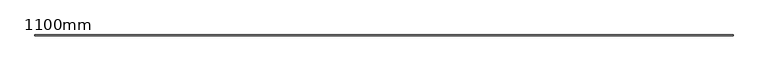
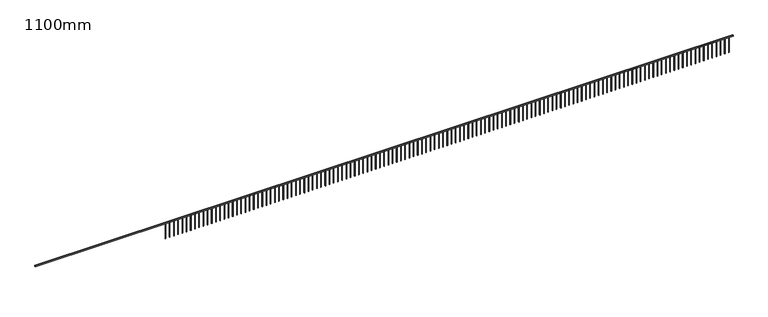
"""IFC4 building model written with IfcOpenShell, lengths in millimetres: railing geometry, 1100mm."""

from ifc_helpers import new_model, si_unit, frame, origin, place, context, project, spatial, polyline, outline, extrude, source, transform, mapped, element, save


def railing_1100mm_11e5196f(model_context):
    return source(origin(), model_context, "Body", "SweptSolid", [
        extrude(outline(polyline([(-10310.8244727, 2491.5551306), (-10310.8244727, 2541.5551306), (35319.9255273, 2541.5551306), (35319.9255273, 2491.5551306), (-10310.8244727, 2491.5551306)])), frame((0.0, 0.0, 5050.0), z_axis=(0.0, 0.0, 1.0), x_axis=(1.0, 0.0, 0.0)), (0.0, 0.0, 1.0), 50.0),
        extrude(outline(polyline([(35051.6755273, 2504.0551306), (35051.6755273, 2529.0551306), (35076.6755273, 2529.0551306), (35076.6755273, 2504.0551306), (35051.6755273, 2504.0551306)])), frame((0.0, 0.0, 4000.0), z_axis=(0.0, 0.0, 1.0), x_axis=(1.0, 0.0, 0.0)), (0.0, 0.0, 1.0), 1050.0),
        extrude(outline(polyline([(34776.6755273, 2504.0551306), (34776.6755273, 2529.0551306), (34801.6755273, 2529.0551306), (34801.6755273, 2504.0551306), (34776.6755273, 2504.0551306)])), frame((0.0, 0.0, 4000.0), z_axis=(0.0, 0.0, 1.0), x_axis=(1.0, 0.0, 0.0)), (0.0, 0.0, 1.0), 1050.0),
        extrude(outline(polyline([(34501.6755273, 2504.0551306), (34501.6755273, 2529.0551306), (34526.6755273, 2529.0551306), (34526.6755273, 2504.0551306), (34501.6755273, 2504.0551306)])), frame((0.0, 0.0, 4000.0), z_axis=(0.0, 0.0, 1.0), x_axis=(1.0, 0.0, 0.0)), (0.0, 0.0, 1.0), 1050.0),
        extrude(outline(polyline([(34226.6755273, 2504.0551306), (34226.6755273, 2529.0551306), (34251.6755273, 2529.0551306), (34251.6755273, 2504.0551306), (34226.6755273, 2504.0551306)])), frame((0.0, 0.0, 4000.0), z_axis=(0.0, 0.0, 1.0), x_axis=(1.0, 0.0, 0.0)), (0.0, 0.0, 1.0), 1050.0),
        extrude(outline(polyline([(33951.6755273, 2504.0551306), (33951.6755273, 2529.0551306), (33976.6755273, 2529.0551306), (33976.6755273, 2504.0551306), (33951.6755273, 2504.0551306)])), frame((0.0, 0.0, 4000.0), z_axis=(0.0, 0.0, 1.0), x_axis=(1.0, 0.0, 0.0)), (0.0, 0.0, 1.0), 1050.0),
        extrude(outline(polyline([(33676.6755273, 2504.0551306), (33676.6755273, 2529.0551306), (33701.6755273, 2529.0551306), (33701.6755273, 2504.0551306), (33676.6755273, 2504.0551306)])), frame((0.0, 0.0, 4000.0), z_axis=(0.0, 0.0, 1.0), x_axis=(1.0, 0.0, 0.0)), (0.0, 0.0, 1.0), 1050.0),
        extrude(outline(polyline([(33401.6755273, 2504.0551306), (33401.6755273, 2529.0551306), (33426.6755273, 2529.0551306), (33426.6755273, 2504.0551306), (33401.6755273, 2504.0551306)])), frame((0.0, 0.0, 4000.0), z_axis=(0.0, 0.0, 1.0), x_axis=(1.0, 0.0, 0.0)), (0.0, 0.0, 1.0), 1050.0),
        extrude(outline(polyline([(33126.6755273, 2504.0551306), (33126.6755273, 2529.0551306), (33151.6755273, 2529.0551306), (33151.6755273, 2504.0551306), (33126.6755273, 2504.0551306)])), frame((0.0, 0.0, 4000.0), z_axis=(0.0, 0.0, 1.0), x_axis=(1.0, 0.0, 0.0)), (0.0, 0.0, 1.0), 1050.0),
        extrude(outline(polyline([(32851.6755273, 2504.0551306), (32851.6755273, 2529.0551306), (32876.6755273, 2529.0551306), (32876.6755273, 2504.0551306), (32851.6755273, 2504.0551306)])), frame((0.0, 0.0, 4000.0), z_axis=(0.0, 0.0, 1.0), x_axis=(1.0, 0.0, 0.0)), (0.0, 0.0, 1.0), 1050.0),
        extrude(outline(polyline([(32576.6755273, 2504.0551306), (32576.6755273, 2529.0551306), (32601.6755273, 2529.0551306), (32601.6755273, 2504.0551306), (32576.6755273, 2504.0551306)])), frame((0.0, 0.0, 4000.0), z_axis=(0.0, 0.0, 1.0), x_axis=(1.0, 0.0, 0.0)), (0.0, 0.0, 1.0), 1050.0),
        extrude(outline(polyline([(32301.6755273, 2504.0551306), (32301.6755273, 2529.0551306), (32326.6755273, 2529.0551306), (32326.6755273, 2504.0551306), (32301.6755273, 2504.0551306)])), frame((0.0, 0.0, 4000.0), z_axis=(0.0, 0.0, 1.0), x_axis=(1.0, 0.0, 0.0)), (0.0, 0.0, 1.0), 1050.0),
        extrude(outline(polyline([(32026.6755273, 2504.0551306), (32026.6755273, 2529.0551306), (32051.6755273, 2529.0551306), (32051.6755273, 2504.0551306), (32026.6755273, 2504.0551306)])), frame((0.0, 0.0, 4000.0), z_axis=(0.0, 0.0, 1.0), x_axis=(1.0, 0.0, 0.0)), (0.0, 0.0, 1.0), 1050.0),
        extrude(outline(polyline([(31751.6755273, 2504.0551306), (31751.6755273, 2529.0551306), (31776.6755273, 2529.0551306), (31776.6755273, 2504.0551306), (31751.6755273, 2504.0551306)])), frame((0.0, 0.0, 4000.0), z_axis=(0.0, 0.0, 1.0), x_axis=(1.0, 0.0, 0.0)), (0.0, 0.0, 1.0), 1050.0),
        extrude(outline(polyline([(31476.6755273, 2504.0551306), (31476.6755273, 2529.0551306), (31501.6755273, 2529.0551306), (31501.6755273, 2504.0551306), (31476.6755273, 2504.0551306)])), frame((0.0, 0.0, 4000.0), z_axis=(0.0, 0.0, 1.0), x_axis=(1.0, 0.0, 0.0)), (0.0, 0.0, 1.0), 1050.0),
        extrude(outline(polyline([(31201.6755273, 2504.0551306), (31201.6755273, 2529.0551306), (31226.6755273, 2529.0551306), (31226.6755273, 2504.0551306), (31201.6755273, 2504.0551306)])), frame((0.0, 0.0, 4000.0), z_axis=(0.0, 0.0, 1.0), x_axis=(1.0, 0.0, 0.0)), (0.0, 0.0, 1.0), 1050.0),
        extrude(outline(polyline([(30926.6755273, 2504.0551306), (30926.6755273, 2529.0551306), (30951.6755273, 2529.0551306), (30951.6755273, 2504.0551306), (30926.6755273, 2504.0551306)])), frame((0.0, 0.0, 4000.0), z_axis=(0.0, 0.0, 1.0), x_axis=(1.0, 0.0, 0.0)), (0.0, 0.0, 1.0), 1050.0),
        extrude(outline(polyline([(30651.6755273, 2504.0551306), (30651.6755273, 2529.0551306), (30676.6755273, 2529.0551306), (30676.6755273, 2504.0551306), (30651.6755273, 2504.0551306)])), frame((0.0, 0.0, 4000.0), z_axis=(0.0, 0.0, 1.0), x_axis=(1.0, 0.0, 0.0)), (0.0, 0.0, 1.0), 1050.0),
        extrude(outline(polyline([(30376.6755273, 2504.0551306), (30376.6755273, 2529.0551306), (30401.6755273, 2529.0551306), (30401.6755273, 2504.0551306), (30376.6755273, 2504.0551306)])), frame((0.0, 0.0, 4000.0), z_axis=(0.0, 0.0, 1.0), x_axis=(1.0, 0.0, 0.0)), (0.0, 0.0, 1.0), 1050.0),
        extrude(outline(polyline([(30101.6755273, 2504.0551306), (30101.6755273, 2529.0551306), (30126.6755273, 2529.0551306), (30126.6755273, 2504.0551306), (30101.6755273, 2504.0551306)])), frame((0.0, 0.0, 4000.0), z_axis=(0.0, 0.0, 1.0), x_axis=(1.0, 0.0, 0.0)), (0.0, 0.0, 1.0), 1050.0),
        extrude(outline(polyline([(29826.6755273, 2504.0551306), (29826.6755273, 2529.0551306), (29851.6755273, 2529.0551306), (29851.6755273, 2504.0551306), (29826.6755273, 2504.0551306)])), frame((0.0, 0.0, 4000.0), z_axis=(0.0, 0.0, 1.0), x_axis=(1.0, 0.0, 0.0)), (0.0, 0.0, 1.0), 1050.0),
        extrude(outline(polyline([(29551.6755273, 2504.0551306), (29551.6755273, 2529.0551306), (29576.6755273, 2529.0551306), (29576.6755273, 2504.0551306), (29551.6755273, 2504.0551306)])), frame((0.0, 0.0, 4000.0), z_axis=(0.0, 0.0, 1.0), x_axis=(1.0, 0.0, 0.0)), (0.0, 0.0, 1.0), 1050.0),
        extrude(outline(polyline([(29276.6755273, 2504.0551306), (29276.6755273, 2529.0551306), (29301.6755273, 2529.0551306), (29301.6755273, 2504.0551306), (29276.6755273, 2504.0551306)])), frame((0.0, 0.0, 4000.0), z_axis=(0.0, 0.0, 1.0), x_axis=(1.0, 0.0, 0.0)), (0.0, 0.0, 1.0), 1050.0),
        extrude(outline(polyline([(29001.6755273, 2504.0551306), (29001.6755273, 2529.0551306), (29026.6755273, 2529.0551306), (29026.6755273, 2504.0551306), (29001.6755273, 2504.0551306)])), frame((0.0, 0.0, 4000.0), z_axis=(0.0, 0.0, 1.0), x_axis=(1.0, 0.0, 0.0)), (0.0, 0.0, 1.0), 1050.0),
        extrude(outline(polyline([(28726.6755273, 2504.0551306), (28726.6755273, 2529.0551306), (28751.6755273, 2529.0551306), (28751.6755273, 2504.0551306), (28726.6755273, 2504.0551306)])), frame((0.0, 0.0, 4000.0), z_axis=(0.0, 0.0, 1.0), x_axis=(1.0, 0.0, 0.0)), (0.0, 0.0, 1.0), 1050.0),
        extrude(outline(polyline([(28451.6755273, 2504.0551306), (28451.6755273, 2529.0551306), (28476.6755273, 2529.0551306), (28476.6755273, 2504.0551306), (28451.6755273, 2504.0551306)])), frame((0.0, 0.0, 4000.0), z_axis=(0.0, 0.0, 1.0), x_axis=(1.0, 0.0, 0.0)), (0.0, 0.0, 1.0), 1050.0),
        extrude(outline(polyline([(28176.6755273, 2504.0551306), (28176.6755273, 2529.0551306), (28201.6755273, 2529.0551306), (28201.6755273, 2504.0551306), (28176.6755273, 2504.0551306)])), frame((0.0, 0.0, 4000.0), z_axis=(0.0, 0.0, 1.0), x_axis=(1.0, 0.0, 0.0)), (0.0, 0.0, 1.0), 1050.0),
        extrude(outline(polyline([(27901.6755273, 2504.0551306), (27901.6755273, 2529.0551306), (27926.6755273, 2529.0551306), (27926.6755273, 2504.0551306), (27901.6755273, 2504.0551306)])), frame((0.0, 0.0, 4000.0), z_axis=(0.0, 0.0, 1.0), x_axis=(1.0, 0.0, 0.0)), (0.0, 0.0, 1.0), 1050.0),
        extrude(outline(polyline([(27626.6755273, 2504.0551306), (27626.6755273, 2529.0551306), (27651.6755273, 2529.0551306), (27651.6755273, 2504.0551306), (27626.6755273, 2504.0551306)])), frame((0.0, 0.0, 4000.0), z_axis=(0.0, 0.0, 1.0), x_axis=(1.0, 0.0, 0.0)), (0.0, 0.0, 1.0), 1050.0),
        extrude(outline(polyline([(27351.6755273, 2504.0551306), (27351.6755273, 2529.0551306), (27376.6755273, 2529.0551306), (27376.6755273, 2504.0551306), (27351.6755273, 2504.0551306)])), frame((0.0, 0.0, 4000.0), z_axis=(0.0, 0.0, 1.0), x_axis=(1.0, 0.0, 0.0)), (0.0, 0.0, 1.0), 1050.0),
        extrude(outline(polyline([(27076.6755273, 2504.0551306), (27076.6755273, 2529.0551306), (27101.6755273, 2529.0551306), (27101.6755273, 2504.0551306), (27076.6755273, 2504.0551306)])), frame((0.0, 0.0, 4000.0), z_axis=(0.0, 0.0, 1.0), x_axis=(1.0, 0.0, 0.0)), (0.0, 0.0, 1.0), 1050.0),
        extrude(outline(polyline([(26801.6755273, 2504.0551306), (26801.6755273, 2529.0551306), (26826.6755273, 2529.0551306), (26826.6755273, 2504.0551306), (26801.6755273, 2504.0551306)])), frame((0.0, 0.0, 4000.0), z_axis=(0.0, 0.0, 1.0), x_axis=(1.0, 0.0, 0.0)), (0.0, 0.0, 1.0), 1050.0),
        extrude(outline(polyline([(26526.6755273, 2504.0551306), (26526.6755273, 2529.0551306), (26551.6755273, 2529.0551306), (26551.6755273, 2504.0551306), (26526.6755273, 2504.0551306)])), frame((0.0, 0.0, 4000.0), z_axis=(0.0, 0.0, 1.0), x_axis=(1.0, 0.0, 0.0)), (0.0, 0.0, 1.0), 1050.0),
        extrude(outline(polyline([(26251.6755273, 2504.0551306), (26251.6755273, 2529.0551306), (26276.6755273, 2529.0551306), (26276.6755273, 2504.0551306), (26251.6755273, 2504.0551306)])), frame((0.0, 0.0, 4000.0), z_axis=(0.0, 0.0, 1.0), x_axis=(1.0, 0.0, 0.0)), (0.0, 0.0, 1.0), 1050.0),
        extrude(outline(polyline([(25976.6755273, 2504.0551306), (25976.6755273, 2529.0551306), (26001.6755273, 2529.0551306), (26001.6755273, 2504.0551306), (25976.6755273, 2504.0551306)])), frame((0.0, 0.0, 4000.0), z_axis=(0.0, 0.0, 1.0), x_axis=(1.0, 0.0, 0.0)), (0.0, 0.0, 1.0), 1050.0),
        extrude(outline(polyline([(25701.6755273, 2504.0551306), (25701.6755273, 2529.0551306), (25726.6755273, 2529.0551306), (25726.6755273, 2504.0551306), (25701.6755273, 2504.0551306)])), frame((0.0, 0.0, 4000.0), z_axis=(0.0, 0.0, 1.0), x_axis=(1.0, 0.0, 0.0)), (0.0, 0.0, 1.0), 1050.0),
        extrude(outline(polyline([(25426.6755273, 2504.0551306), (25426.6755273, 2529.0551306), (25451.6755273, 2529.0551306), (25451.6755273, 2504.0551306), (25426.6755273, 2504.0551306)])), frame((0.0, 0.0, 4000.0), z_axis=(0.0, 0.0, 1.0), x_axis=(1.0, 0.0, 0.0)), (0.0, 0.0, 1.0), 1050.0),
        extrude(outline(polyline([(25151.6755273, 2504.0551306), (25151.6755273, 2529.0551306), (25176.6755273, 2529.0551306), (25176.6755273, 2504.0551306), (25151.6755273, 2504.0551306)])), frame((0.0, 0.0, 4000.0), z_axis=(0.0, 0.0, 1.0), x_axis=(1.0, 0.0, 0.0)), (0.0, 0.0, 1.0), 1050.0),
        extrude(outline(polyline([(24876.6755273, 2504.0551306), (24876.6755273, 2529.0551306), (24901.6755273, 2529.0551306), (24901.6755273, 2504.0551306), (24876.6755273, 2504.0551306)])), frame((0.0, 0.0, 4000.0), z_axis=(0.0, 0.0, 1.0), x_axis=(1.0, 0.0, 0.0)), (0.0, 0.0, 1.0), 1050.0),
        extrude(outline(polyline([(24601.6755273, 2504.0551306), (24601.6755273, 2529.0551306), (24626.6755273, 2529.0551306), (24626.6755273, 2504.0551306), (24601.6755273, 2504.0551306)])), frame((0.0, 0.0, 4000.0), z_axis=(0.0, 0.0, 1.0), x_axis=(1.0, 0.0, 0.0)), (0.0, 0.0, 1.0), 1050.0),
        extrude(outline(polyline([(24326.6755273, 2504.0551306), (24326.6755273, 2529.0551306), (24351.6755273, 2529.0551306), (24351.6755273, 2504.0551306), (24326.6755273, 2504.0551306)])), frame((0.0, 0.0, 4000.0), z_axis=(0.0, 0.0, 1.0), x_axis=(1.0, 0.0, 0.0)), (0.0, 0.0, 1.0), 1050.0),
        extrude(outline(polyline([(24051.6755273, 2504.0551306), (24051.6755273, 2529.0551306), (24076.6755273, 2529.0551306), (24076.6755273, 2504.0551306), (24051.6755273, 2504.0551306)])), frame((0.0, 0.0, 4000.0), z_axis=(0.0, 0.0, 1.0), x_axis=(1.0, 0.0, 0.0)), (0.0, 0.0, 1.0), 1050.0),
        extrude(outline(polyline([(23776.6755273, 2504.0551306), (23776.6755273, 2529.0551306), (23801.6755273, 2529.0551306), (23801.6755273, 2504.0551306), (23776.6755273, 2504.0551306)])), frame((0.0, 0.0, 4000.0), z_axis=(0.0, 0.0, 1.0), x_axis=(1.0, 0.0, 0.0)), (0.0, 0.0, 1.0), 1050.0),
        extrude(outline(polyline([(23501.6755273, 2504.0551306), (23501.6755273, 2529.0551306), (23526.6755273, 2529.0551306), (23526.6755273, 2504.0551306), (23501.6755273, 2504.0551306)])), frame((0.0, 0.0, 4000.0), z_axis=(0.0, 0.0, 1.0), x_axis=(1.0, 0.0, 0.0)), (0.0, 0.0, 1.0), 1050.0),
        extrude(outline(polyline([(23226.6755273, 2504.0551306), (23226.6755273, 2529.0551306), (23251.6755273, 2529.0551306), (23251.6755273, 2504.0551306), (23226.6755273, 2504.0551306)])), frame((0.0, 0.0, 4000.0), z_axis=(0.0, 0.0, 1.0), x_axis=(1.0, 0.0, 0.0)), (0.0, 0.0, 1.0), 1050.0),
        extrude(outline(polyline([(22951.6755273, 2504.0551306), (22951.6755273, 2529.0551306), (22976.6755273, 2529.0551306), (22976.6755273, 2504.0551306), (22951.6755273, 2504.0551306)])), frame((0.0, 0.0, 4000.0), z_axis=(0.0, 0.0, 1.0), x_axis=(1.0, 0.0, 0.0)), (0.0, 0.0, 1.0), 1050.0),
        extrude(outline(polyline([(22676.6755273, 2504.0551306), (22676.6755273, 2529.0551306), (22701.6755273, 2529.0551306), (22701.6755273, 2504.0551306), (22676.6755273, 2504.0551306)])), frame((0.0, 0.0, 4000.0), z_axis=(0.0, 0.0, 1.0), x_axis=(1.0, 0.0, 0.0)), (0.0, 0.0, 1.0), 1050.0),
        extrude(outline(polyline([(22401.6755273, 2504.0551306), (22401.6755273, 2529.0551306), (22426.6755273, 2529.0551306), (22426.6755273, 2504.0551306), (22401.6755273, 2504.0551306)])), frame((0.0, 0.0, 4000.0), z_axis=(0.0, 0.0, 1.0), x_axis=(1.0, 0.0, 0.0)), (0.0, 0.0, 1.0), 1050.0),
        extrude(outline(polyline([(22126.6755273, 2504.0551306), (22126.6755273, 2529.0551306), (22151.6755273, 2529.0551306), (22151.6755273, 2504.0551306), (22126.6755273, 2504.0551306)])), frame((0.0, 0.0, 4000.0), z_axis=(0.0, 0.0, 1.0), x_axis=(1.0, 0.0, 0.0)), (0.0, 0.0, 1.0), 1050.0),
        extrude(outline(polyline([(21851.6755273, 2504.0551306), (21851.6755273, 2529.0551306), (21876.6755273, 2529.0551306), (21876.6755273, 2504.0551306), (21851.6755273, 2504.0551306)])), frame((0.0, 0.0, 4000.0), z_axis=(0.0, 0.0, 1.0), x_axis=(1.0, 0.0, 0.0)), (0.0, 0.0, 1.0), 1050.0),
        extrude(outline(polyline([(21576.6755273, 2504.0551306), (21576.6755273, 2529.0551306), (21601.6755273, 2529.0551306), (21601.6755273, 2504.0551306), (21576.6755273, 2504.0551306)])), frame((0.0, 0.0, 4000.0), z_axis=(0.0, 0.0, 1.0), x_axis=(1.0, 0.0, 0.0)), (0.0, 0.0, 1.0), 1050.0),
        extrude(outline(polyline([(21301.6755273, 2504.0551306), (21301.6755273, 2529.0551306), (21326.6755273, 2529.0551306), (21326.6755273, 2504.0551306), (21301.6755273, 2504.0551306)])), frame((0.0, 0.0, 4000.0), z_axis=(0.0, 0.0, 1.0), x_axis=(1.0, 0.0, 0.0)), (0.0, 0.0, 1.0), 1050.0),
        extrude(outline(polyline([(21026.6755273, 2504.0551306), (21026.6755273, 2529.0551306), (21051.6755273, 2529.0551306), (21051.6755273, 2504.0551306), (21026.6755273, 2504.0551306)])), frame((0.0, 0.0, 4000.0), z_axis=(0.0, 0.0, 1.0), x_axis=(1.0, 0.0, 0.0)), (0.0, 0.0, 1.0), 1050.0),
        extrude(outline(polyline([(20751.6755273, 2504.0551306), (20751.6755273, 2529.0551306), (20776.6755273, 2529.0551306), (20776.6755273, 2504.0551306), (20751.6755273, 2504.0551306)])), frame((0.0, 0.0, 4000.0), z_axis=(0.0, 0.0, 1.0), x_axis=(1.0, 0.0, 0.0)), (0.0, 0.0, 1.0), 1050.0),
        extrude(outline(polyline([(20476.6755273, 2504.0551306), (20476.6755273, 2529.0551306), (20501.6755273, 2529.0551306), (20501.6755273, 2504.0551306), (20476.6755273, 2504.0551306)])), frame((0.0, 0.0, 4000.0), z_axis=(0.0, 0.0, 1.0), x_axis=(1.0, 0.0, 0.0)), (0.0, 0.0, 1.0), 1050.0),
        extrude(outline(polyline([(20201.6755273, 2504.0551306), (20201.6755273, 2529.0551306), (20226.6755273, 2529.0551306), (20226.6755273, 2504.0551306), (20201.6755273, 2504.0551306)])), frame((0.0, 0.0, 4000.0), z_axis=(0.0, 0.0, 1.0), x_axis=(1.0, 0.0, 0.0)), (0.0, 0.0, 1.0), 1050.0),
        extrude(outline(polyline([(19926.6755273, 2504.0551306), (19926.6755273, 2529.0551306), (19951.6755273, 2529.0551306), (19951.6755273, 2504.0551306), (19926.6755273, 2504.0551306)])), frame((0.0, 0.0, 4000.0), z_axis=(0.0, 0.0, 1.0), x_axis=(1.0, 0.0, 0.0)), (0.0, 0.0, 1.0), 1050.0),
        extrude(outline(polyline([(19651.6755273, 2504.0551306), (19651.6755273, 2529.0551306), (19676.6755273, 2529.0551306), (19676.6755273, 2504.0551306), (19651.6755273, 2504.0551306)])), frame((0.0, 0.0, 4000.0), z_axis=(0.0, 0.0, 1.0), x_axis=(1.0, 0.0, 0.0)), (0.0, 0.0, 1.0), 1050.0),
        extrude(outline(polyline([(19376.6755273, 2504.0551306), (19376.6755273, 2529.0551306), (19401.6755273, 2529.0551306), (19401.6755273, 2504.0551306), (19376.6755273, 2504.0551306)])), frame((0.0, 0.0, 4000.0), z_axis=(0.0, 0.0, 1.0), x_axis=(1.0, 0.0, 0.0)), (0.0, 0.0, 1.0), 1050.0),
        extrude(outline(polyline([(19101.6755273, 2504.0551306), (19101.6755273, 2529.0551306), (19126.6755273, 2529.0551306), (19126.6755273, 2504.0551306), (19101.6755273, 2504.0551306)])), frame((0.0, 0.0, 4000.0), z_axis=(0.0, 0.0, 1.0), x_axis=(1.0, 0.0, 0.0)), (0.0, 0.0, 1.0), 1050.0),
        extrude(outline(polyline([(18826.6755273, 2504.0551306), (18826.6755273, 2529.0551306), (18851.6755273, 2529.0551306), (18851.6755273, 2504.0551306), (18826.6755273, 2504.0551306)])), frame((0.0, 0.0, 4000.0), z_axis=(0.0, 0.0, 1.0), x_axis=(1.0, 0.0, 0.0)), (0.0, 0.0, 1.0), 1050.0),
        extrude(outline(polyline([(18551.6755273, 2504.0551306), (18551.6755273, 2529.0551306), (18576.6755273, 2529.0551306), (18576.6755273, 2504.0551306), (18551.6755273, 2504.0551306)])), frame((0.0, 0.0, 4000.0), z_axis=(0.0, 0.0, 1.0), x_axis=(1.0, 0.0, 0.0)), (0.0, 0.0, 1.0), 1050.0),
        extrude(outline(polyline([(18276.6755273, 2504.0551306), (18276.6755273, 2529.0551306), (18301.6755273, 2529.0551306), (18301.6755273, 2504.0551306), (18276.6755273, 2504.0551306)])), frame((0.0, 0.0, 4000.0), z_axis=(0.0, 0.0, 1.0), x_axis=(1.0, 0.0, 0.0)), (0.0, 0.0, 1.0), 1050.0),
        extrude(outline(polyline([(18001.6755273, 2504.0551306), (18001.6755273, 2529.0551306), (18026.6755273, 2529.0551306), (18026.6755273, 2504.0551306), (18001.6755273, 2504.0551306)])), frame((0.0, 0.0, 4000.0), z_axis=(0.0, 0.0, 1.0), x_axis=(1.0, 0.0, 0.0)), (0.0, 0.0, 1.0), 1050.0),
        extrude(outline(polyline([(17726.6755273, 2504.0551306), (17726.6755273, 2529.0551306), (17751.6755273, 2529.0551306), (17751.6755273, 2504.0551306), (17726.6755273, 2504.0551306)])), frame((0.0, 0.0, 4000.0), z_axis=(0.0, 0.0, 1.0), x_axis=(1.0, 0.0, 0.0)), (0.0, 0.0, 1.0), 1050.0),
        extrude(outline(polyline([(17451.6755273, 2504.0551306), (17451.6755273, 2529.0551306), (17476.6755273, 2529.0551306), (17476.6755273, 2504.0551306), (17451.6755273, 2504.0551306)])), frame((0.0, 0.0, 4000.0), z_axis=(0.0, 0.0, 1.0), x_axis=(1.0, 0.0, 0.0)), (0.0, 0.0, 1.0), 1050.0),
        extrude(outline(polyline([(17176.6755273, 2504.0551306), (17176.6755273, 2529.0551306), (17201.6755273, 2529.0551306), (17201.6755273, 2504.0551306), (17176.6755273, 2504.0551306)])), frame((0.0, 0.0, 4000.0), z_axis=(0.0, 0.0, 1.0), x_axis=(1.0, 0.0, 0.0)), (0.0, 0.0, 1.0), 1050.0),
        extrude(outline(polyline([(16901.6755273, 2504.0551306), (16901.6755273, 2529.0551306), (16926.6755273, 2529.0551306), (16926.6755273, 2504.0551306), (16901.6755273, 2504.0551306)])), frame((0.0, 0.0, 4000.0), z_axis=(0.0, 0.0, 1.0), x_axis=(1.0, 0.0, 0.0)), (0.0, 0.0, 1.0), 1050.0),
        extrude(outline(polyline([(16626.6755273, 2504.0551306), (16626.6755273, 2529.0551306), (16651.6755273, 2529.0551306), (16651.6755273, 2504.0551306), (16626.6755273, 2504.0551306)])), frame((0.0, 0.0, 4000.0), z_axis=(0.0, 0.0, 1.0), x_axis=(1.0, 0.0, 0.0)), (0.0, 0.0, 1.0), 1050.0),
        extrude(outline(polyline([(16351.6755273, 2504.0551306), (16351.6755273, 2529.0551306), (16376.6755273, 2529.0551306), (16376.6755273, 2504.0551306), (16351.6755273, 2504.0551306)])), frame((0.0, 0.0, 4000.0), z_axis=(0.0, 0.0, 1.0), x_axis=(1.0, 0.0, 0.0)), (0.0, 0.0, 1.0), 1050.0),
        extrude(outline(polyline([(16076.6755273, 2504.0551306), (16076.6755273, 2529.0551306), (16101.6755273, 2529.0551306), (16101.6755273, 2504.0551306), (16076.6755273, 2504.0551306)])), frame((0.0, 0.0, 4000.0), z_axis=(0.0, 0.0, 1.0), x_axis=(1.0, 0.0, 0.0)), (0.0, 0.0, 1.0), 1050.0),
        extrude(outline(polyline([(15801.6755273, 2504.0551306), (15801.6755273, 2529.0551306), (15826.6755273, 2529.0551306), (15826.6755273, 2504.0551306), (15801.6755273, 2504.0551306)])), frame((0.0, 0.0, 4000.0), z_axis=(0.0, 0.0, 1.0), x_axis=(1.0, 0.0, 0.0)), (0.0, 0.0, 1.0), 1050.0),
        extrude(outline(polyline([(15526.6755273, 2504.0551306), (15526.6755273, 2529.0551306), (15551.6755273, 2529.0551306), (15551.6755273, 2504.0551306), (15526.6755273, 2504.0551306)])), frame((0.0, 0.0, 4000.0), z_axis=(0.0, 0.0, 1.0), x_axis=(1.0, 0.0, 0.0)), (0.0, 0.0, 1.0), 1050.0),
        extrude(outline(polyline([(15251.6755273, 2504.0551306), (15251.6755273, 2529.0551306), (15276.6755273, 2529.0551306), (15276.6755273, 2504.0551306), (15251.6755273, 2504.0551306)])), frame((0.0, 0.0, 4000.0), z_axis=(0.0, 0.0, 1.0), x_axis=(1.0, 0.0, 0.0)), (0.0, 0.0, 1.0), 1050.0),
        extrude(outline(polyline([(14976.6755273, 2504.0551306), (14976.6755273, 2529.0551306), (15001.6755273, 2529.0551306), (15001.6755273, 2504.0551306), (14976.6755273, 2504.0551306)])), frame((0.0, 0.0, 4000.0), z_axis=(0.0, 0.0, 1.0), x_axis=(1.0, 0.0, 0.0)), (0.0, 0.0, 1.0), 1050.0),
        extrude(outline(polyline([(14701.6755273, 2504.0551306), (14701.6755273, 2529.0551306), (14726.6755273, 2529.0551306), (14726.6755273, 2504.0551306), (14701.6755273, 2504.0551306)])), frame((0.0, 0.0, 4000.0), z_axis=(0.0, 0.0, 1.0), x_axis=(1.0, 0.0, 0.0)), (0.0, 0.0, 1.0), 1050.0),
        extrude(outline(polyline([(14426.6755273, 2504.0551306), (14426.6755273, 2529.0551306), (14451.6755273, 2529.0551306), (14451.6755273, 2504.0551306), (14426.6755273, 2504.0551306)])), frame((0.0, 0.0, 4000.0), z_axis=(0.0, 0.0, 1.0), x_axis=(1.0, 0.0, 0.0)), (0.0, 0.0, 1.0), 1050.0),
        extrude(outline(polyline([(14151.6755273, 2504.0551306), (14151.6755273, 2529.0551306), (14176.6755273, 2529.0551306), (14176.6755273, 2504.0551306), (14151.6755273, 2504.0551306)])), frame((0.0, 0.0, 4000.0), z_axis=(0.0, 0.0, 1.0), x_axis=(1.0, 0.0, 0.0)), (0.0, 0.0, 1.0), 1050.0),
        extrude(outline(polyline([(13876.6755273, 2504.0551306), (13876.6755273, 2529.0551306), (13901.6755273, 2529.0551306), (13901.6755273, 2504.0551306), (13876.6755273, 2504.0551306)])), frame((0.0, 0.0, 4000.0), z_axis=(0.0, 0.0, 1.0), x_axis=(1.0, 0.0, 0.0)), (0.0, 0.0, 1.0), 1050.0),
        extrude(outline(polyline([(13601.6755273, 2504.0551306), (13601.6755273, 2529.0551306), (13626.6755273, 2529.0551306), (13626.6755273, 2504.0551306), (13601.6755273, 2504.0551306)])), frame((0.0, 0.0, 4000.0), z_axis=(0.0, 0.0, 1.0), x_axis=(1.0, 0.0, 0.0)), (0.0, 0.0, 1.0), 1050.0),
        extrude(outline(polyline([(13326.6755273, 2504.0551306), (13326.6755273, 2529.0551306), (13351.6755273, 2529.0551306), (13351.6755273, 2504.0551306), (13326.6755273, 2504.0551306)])), frame((0.0, 0.0, 4000.0), z_axis=(0.0, 0.0, 1.0), x_axis=(1.0, 0.0, 0.0)), (0.0, 0.0, 1.0), 1050.0),
        extrude(outline(polyline([(13051.6755273, 2504.0551306), (13051.6755273, 2529.0551306), (13076.6755273, 2529.0551306), (13076.6755273, 2504.0551306), (13051.6755273, 2504.0551306)])), frame((0.0, 0.0, 4000.0), z_axis=(0.0, 0.0, 1.0), x_axis=(1.0, 0.0, 0.0)), (0.0, 0.0, 1.0), 1050.0),
        extrude(outline(polyline([(12776.6755273, 2504.0551306), (12776.6755273, 2529.0551306), (12801.6755273, 2529.0551306), (12801.6755273, 2504.0551306), (12776.6755273, 2504.0551306)])), frame((0.0, 0.0, 4000.0), z_axis=(0.0, 0.0, 1.0), x_axis=(1.0, 0.0, 0.0)), (0.0, 0.0, 1.0), 1050.0),
        extrude(outline(polyline([(12501.6755273, 2504.0551306), (12501.6755273, 2529.0551306), (12526.6755273, 2529.0551306), (12526.6755273, 2504.0551306), (12501.6755273, 2504.0551306)])), frame((0.0, 0.0, 4000.0), z_axis=(0.0, 0.0, 1.0), x_axis=(1.0, 0.0, 0.0)), (0.0, 0.0, 1.0), 1050.0),
        extrude(outline(polyline([(12226.6755273, 2504.0551306), (12226.6755273, 2529.0551306), (12251.6755273, 2529.0551306), (12251.6755273, 2504.0551306), (12226.6755273, 2504.0551306)])), frame((0.0, 0.0, 4000.0), z_axis=(0.0, 0.0, 1.0), x_axis=(1.0, 0.0, 0.0)), (0.0, 0.0, 1.0), 1050.0),
        extrude(outline(polyline([(11951.6755273, 2504.0551306), (11951.6755273, 2529.0551306), (11976.6755273, 2529.0551306), (11976.6755273, 2504.0551306), (11951.6755273, 2504.0551306)])), frame((0.0, 0.0, 4000.0), z_axis=(0.0, 0.0, 1.0), x_axis=(1.0, 0.0, 0.0)), (0.0, 0.0, 1.0), 1050.0),
        extrude(outline(polyline([(11676.6755273, 2504.0551306), (11676.6755273, 2529.0551306), (11701.6755273, 2529.0551306), (11701.6755273, 2504.0551306), (11676.6755273, 2504.0551306)])), frame((0.0, 0.0, 4000.0), z_axis=(0.0, 0.0, 1.0), x_axis=(1.0, 0.0, 0.0)), (0.0, 0.0, 1.0), 1050.0),
        extrude(outline(polyline([(11401.6755273, 2504.0551306), (11401.6755273, 2529.0551306), (11426.6755273, 2529.0551306), (11426.6755273, 2504.0551306), (11401.6755273, 2504.0551306)])), frame((0.0, 0.0, 4000.0), z_axis=(0.0, 0.0, 1.0), x_axis=(1.0, 0.0, 0.0)), (0.0, 0.0, 1.0), 1050.0),
        extrude(outline(polyline([(11126.6755273, 2504.0551306), (11126.6755273, 2529.0551306), (11151.6755273, 2529.0551306), (11151.6755273, 2504.0551306), (11126.6755273, 2504.0551306)])), frame((0.0, 0.0, 4000.0), z_axis=(0.0, 0.0, 1.0), x_axis=(1.0, 0.0, 0.0)), (0.0, 0.0, 1.0), 1050.0),
        extrude(outline(polyline([(10851.6755273, 2504.0551306), (10851.6755273, 2529.0551306), (10876.6755273, 2529.0551306), (10876.6755273, 2504.0551306), (10851.6755273, 2504.0551306)])), frame((0.0, 0.0, 4000.0), z_axis=(0.0, 0.0, 1.0), x_axis=(1.0, 0.0, 0.0)), (0.0, 0.0, 1.0), 1050.0),
        extrude(outline(polyline([(10576.6755273, 2504.0551306), (10576.6755273, 2529.0551306), (10601.6755273, 2529.0551306), (10601.6755273, 2504.0551306), (10576.6755273, 2504.0551306)])), frame((0.0, 0.0, 4000.0), z_axis=(0.0, 0.0, 1.0), x_axis=(1.0, 0.0, 0.0)), (0.0, 0.0, 1.0), 1050.0),
        extrude(outline(polyline([(10301.6755273, 2504.0551306), (10301.6755273, 2529.0551306), (10326.6755273, 2529.0551306), (10326.6755273, 2504.0551306), (10301.6755273, 2504.0551306)])), frame((0.0, 0.0, 4000.0), z_axis=(0.0, 0.0, 1.0), x_axis=(1.0, 0.0, 0.0)), (0.0, 0.0, 1.0), 1050.0),
        extrude(outline(polyline([(10026.6755273, 2504.0551306), (10026.6755273, 2529.0551306), (10051.6755273, 2529.0551306), (10051.6755273, 2504.0551306), (10026.6755273, 2504.0551306)])), frame((0.0, 0.0, 4000.0), z_axis=(0.0, 0.0, 1.0), x_axis=(1.0, 0.0, 0.0)), (0.0, 0.0, 1.0), 1050.0),
        extrude(outline(polyline([(9751.6755273, 2504.0551306), (9751.6755273, 2529.0551306), (9776.6755273, 2529.0551306), (9776.6755273, 2504.0551306), (9751.6755273, 2504.0551306)])), frame((0.0, 0.0, 4000.0), z_axis=(0.0, 0.0, 1.0), x_axis=(1.0, 0.0, 0.0)), (0.0, 0.0, 1.0), 1050.0),
        extrude(outline(polyline([(9476.6755273, 2504.0551306), (9476.6755273, 2529.0551306), (9501.6755273, 2529.0551306), (9501.6755273, 2504.0551306), (9476.6755273, 2504.0551306)])), frame((0.0, 0.0, 4000.0), z_axis=(0.0, 0.0, 1.0), x_axis=(1.0, 0.0, 0.0)), (0.0, 0.0, 1.0), 1050.0),
        extrude(outline(polyline([(9201.6755273, 2504.0551306), (9201.6755273, 2529.0551306), (9226.6755273, 2529.0551306), (9226.6755273, 2504.0551306), (9201.6755273, 2504.0551306)])), frame((0.0, 0.0, 4000.0), z_axis=(0.0, 0.0, 1.0), x_axis=(1.0, 0.0, 0.0)), (0.0, 0.0, 1.0), 1050.0),
        extrude(outline(polyline([(8926.6755273, 2504.0551306), (8926.6755273, 2529.0551306), (8951.6755273, 2529.0551306), (8951.6755273, 2504.0551306), (8926.6755273, 2504.0551306)])), frame((0.0, 0.0, 4000.0), z_axis=(0.0, 0.0, 1.0), x_axis=(1.0, 0.0, 0.0)), (0.0, 0.0, 1.0), 1050.0),
        extrude(outline(polyline([(8651.6755273, 2504.0551306), (8651.6755273, 2529.0551306), (8676.6755273, 2529.0551306), (8676.6755273, 2504.0551306), (8651.6755273, 2504.0551306)])), frame((0.0, 0.0, 4000.0), z_axis=(0.0, 0.0, 1.0), x_axis=(1.0, 0.0, 0.0)), (0.0, 0.0, 1.0), 1050.0),
        extrude(outline(polyline([(8376.6755273, 2504.0551306), (8376.6755273, 2529.0551306), (8401.6755273, 2529.0551306), (8401.6755273, 2504.0551306), (8376.6755273, 2504.0551306)])), frame((0.0, 0.0, 4000.0), z_axis=(0.0, 0.0, 1.0), x_axis=(1.0, 0.0, 0.0)), (0.0, 0.0, 1.0), 1050.0),
        extrude(outline(polyline([(8101.6755273, 2504.0551306), (8101.6755273, 2529.0551306), (8126.6755273, 2529.0551306), (8126.6755273, 2504.0551306), (8101.6755273, 2504.0551306)])), frame((0.0, 0.0, 4000.0), z_axis=(0.0, 0.0, 1.0), x_axis=(1.0, 0.0, 0.0)), (0.0, 0.0, 1.0), 1050.0),
        extrude(outline(polyline([(7826.6755273, 2504.0551306), (7826.6755273, 2529.0551306), (7851.6755273, 2529.0551306), (7851.6755273, 2504.0551306), (7826.6755273, 2504.0551306)])), frame((0.0, 0.0, 4000.0), z_axis=(0.0, 0.0, 1.0), x_axis=(1.0, 0.0, 0.0)), (0.0, 0.0, 1.0), 1050.0),
        extrude(outline(polyline([(7551.6755273, 2504.0551306), (7551.6755273, 2529.0551306), (7576.6755273, 2529.0551306), (7576.6755273, 2504.0551306), (7551.6755273, 2504.0551306)])), frame((0.0, 0.0, 4000.0), z_axis=(0.0, 0.0, 1.0), x_axis=(1.0, 0.0, 0.0)), (0.0, 0.0, 1.0), 1050.0),
        extrude(outline(polyline([(7276.6755273, 2504.0551306), (7276.6755273, 2529.0551306), (7301.6755273, 2529.0551306), (7301.6755273, 2504.0551306), (7276.6755273, 2504.0551306)])), frame((0.0, 0.0, 4000.0), z_axis=(0.0, 0.0, 1.0), x_axis=(1.0, 0.0, 0.0)), (0.0, 0.0, 1.0), 1050.0),
        extrude(outline(polyline([(7001.6755273, 2504.0551306), (7001.6755273, 2529.0551306), (7026.6755273, 2529.0551306), (7026.6755273, 2504.0551306), (7001.6755273, 2504.0551306)])), frame((0.0, 0.0, 4000.0), z_axis=(0.0, 0.0, 1.0), x_axis=(1.0, 0.0, 0.0)), (0.0, 0.0, 1.0), 1050.0),
        extrude(outline(polyline([(6726.6755273, 2504.0551306), (6726.6755273, 2529.0551306), (6751.6755273, 2529.0551306), (6751.6755273, 2504.0551306), (6726.6755273, 2504.0551306)])), frame((0.0, 0.0, 4000.0), z_axis=(0.0, 0.0, 1.0), x_axis=(1.0, 0.0, 0.0)), (0.0, 0.0, 1.0), 1050.0),
        extrude(outline(polyline([(6451.6755273, 2504.0551306), (6451.6755273, 2529.0551306), (6476.6755273, 2529.0551306), (6476.6755273, 2504.0551306), (6451.6755273, 2504.0551306)])), frame((0.0, 0.0, 4000.0), z_axis=(0.0, 0.0, 1.0), x_axis=(1.0, 0.0, 0.0)), (0.0, 0.0, 1.0), 1050.0),
        extrude(outline(polyline([(6176.6755273, 2504.0551306), (6176.6755273, 2529.0551306), (6201.6755273, 2529.0551306), (6201.6755273, 2504.0551306), (6176.6755273, 2504.0551306)])), frame((0.0, 0.0, 4000.0), z_axis=(0.0, 0.0, 1.0), x_axis=(1.0, 0.0, 0.0)), (0.0, 0.0, 1.0), 1050.0),
        extrude(outline(polyline([(5901.6755273, 2504.0551306), (5901.6755273, 2529.0551306), (5926.6755273, 2529.0551306), (5926.6755273, 2504.0551306), (5901.6755273, 2504.0551306)])), frame((0.0, 0.0, 4000.0), z_axis=(0.0, 0.0, 1.0), x_axis=(1.0, 0.0, 0.0)), (0.0, 0.0, 1.0), 1050.0),
        extrude(outline(polyline([(5626.6755273, 2504.0551306), (5626.6755273, 2529.0551306), (5651.6755273, 2529.0551306), (5651.6755273, 2504.0551306), (5626.6755273, 2504.0551306)])), frame((0.0, 0.0, 4000.0), z_axis=(0.0, 0.0, 1.0), x_axis=(1.0, 0.0, 0.0)), (0.0, 0.0, 1.0), 1050.0),
        extrude(outline(polyline([(5351.6755273, 2504.0551306), (5351.6755273, 2529.0551306), (5376.6755273, 2529.0551306), (5376.6755273, 2504.0551306), (5351.6755273, 2504.0551306)])), frame((0.0, 0.0, 4000.0), z_axis=(0.0, 0.0, 1.0), x_axis=(1.0, 0.0, 0.0)), (0.0, 0.0, 1.0), 1050.0),
        extrude(outline(polyline([(5076.6755273, 2504.0551306), (5076.6755273, 2529.0551306), (5101.6755273, 2529.0551306), (5101.6755273, 2504.0551306), (5076.6755273, 2504.0551306)])), frame((0.0, 0.0, 4000.0), z_axis=(0.0, 0.0, 1.0), x_axis=(1.0, 0.0, 0.0)), (0.0, 0.0, 1.0), 1050.0),
        extrude(outline(polyline([(4801.6755273, 2504.0551306), (4801.6755273, 2529.0551306), (4826.6755273, 2529.0551306), (4826.6755273, 2504.0551306), (4801.6755273, 2504.0551306)])), frame((0.0, 0.0, 4000.0), z_axis=(0.0, 0.0, 1.0), x_axis=(1.0, 0.0, 0.0)), (0.0, 0.0, 1.0), 1050.0),
        extrude(outline(polyline([(4526.6755273, 2504.0551306), (4526.6755273, 2529.0551306), (4551.6755273, 2529.0551306), (4551.6755273, 2504.0551306), (4526.6755273, 2504.0551306)])), frame((0.0, 0.0, 4000.0), z_axis=(0.0, 0.0, 1.0), x_axis=(1.0, 0.0, 0.0)), (0.0, 0.0, 1.0), 1050.0),
        extrude(outline(polyline([(4251.6755273, 2504.0551306), (4251.6755273, 2529.0551306), (4276.6755273, 2529.0551306), (4276.6755273, 2504.0551306), (4251.6755273, 2504.0551306)])), frame((0.0, 0.0, 4000.0), z_axis=(0.0, 0.0, 1.0), x_axis=(1.0, 0.0, 0.0)), (0.0, 0.0, 1.0), 1050.0),
        extrude(outline(polyline([(3976.6755273, 2504.0551306), (3976.6755273, 2529.0551306), (4001.6755273, 2529.0551306), (4001.6755273, 2504.0551306), (3976.6755273, 2504.0551306)])), frame((0.0, 0.0, 4000.0), z_axis=(0.0, 0.0, 1.0), x_axis=(1.0, 0.0, 0.0)), (0.0, 0.0, 1.0), 1050.0),
        extrude(outline(polyline([(3701.6755273, 2504.0551306), (3701.6755273, 2529.0551306), (3726.6755273, 2529.0551306), (3726.6755273, 2504.0551306), (3701.6755273, 2504.0551306)])), frame((0.0, 0.0, 4000.0), z_axis=(0.0, 0.0, 1.0), x_axis=(1.0, 0.0, 0.0)), (0.0, 0.0, 1.0), 1050.0),
        extrude(outline(polyline([(3426.6755273, 2504.0551306), (3426.6755273, 2529.0551306), (3451.6755273, 2529.0551306), (3451.6755273, 2504.0551306), (3426.6755273, 2504.0551306)])), frame((0.0, 0.0, 4000.0), z_axis=(0.0, 0.0, 1.0), x_axis=(1.0, 0.0, 0.0)), (0.0, 0.0, 1.0), 1050.0),
        extrude(outline(polyline([(3151.6755273, 2504.0551306), (3151.6755273, 2529.0551306), (3176.6755273, 2529.0551306), (3176.6755273, 2504.0551306), (3151.6755273, 2504.0551306)])), frame((0.0, 0.0, 4000.0), z_axis=(0.0, 0.0, 1.0), x_axis=(1.0, 0.0, 0.0)), (0.0, 0.0, 1.0), 1050.0),
        extrude(outline(polyline([(2876.6755273, 2504.0551306), (2876.6755273, 2529.0551306), (2901.6755273, 2529.0551306), (2901.6755273, 2504.0551306), (2876.6755273, 2504.0551306)])), frame((0.0, 0.0, 4000.0), z_axis=(0.0, 0.0, 1.0), x_axis=(1.0, 0.0, 0.0)), (0.0, 0.0, 1.0), 1050.0),
        extrude(outline(polyline([(2601.6755273, 2504.0551306), (2601.6755273, 2529.0551306), (2626.6755273, 2529.0551306), (2626.6755273, 2504.0551306), (2601.6755273, 2504.0551306)])), frame((0.0, 0.0, 4000.0), z_axis=(0.0, 0.0, 1.0), x_axis=(1.0, 0.0, 0.0)), (0.0, 0.0, 1.0), 1050.0),
        extrude(outline(polyline([(2326.6755273, 2504.0551306), (2326.6755273, 2529.0551306), (2351.6755273, 2529.0551306), (2351.6755273, 2504.0551306), (2326.6755273, 2504.0551306)])), frame((0.0, 0.0, 4000.0), z_axis=(0.0, 0.0, 1.0), x_axis=(1.0, 0.0, 0.0)), (0.0, 0.0, 1.0), 1050.0),
        extrude(outline(polyline([(2051.6755273, 2504.0551306), (2051.6755273, 2529.0551306), (2076.6755273, 2529.0551306), (2076.6755273, 2504.0551306), (2051.6755273, 2504.0551306)])), frame((0.0, 0.0, 4000.0), z_axis=(0.0, 0.0, 1.0), x_axis=(1.0, 0.0, 0.0)), (0.0, 0.0, 1.0), 1050.0),
        extrude(outline(polyline([(1776.6755273, 2504.0551306), (1776.6755273, 2529.0551306), (1801.6755273, 2529.0551306), (1801.6755273, 2504.0551306), (1776.6755273, 2504.0551306)])), frame((0.0, 0.0, 4000.0), z_axis=(0.0, 0.0, 1.0), x_axis=(1.0, 0.0, 0.0)), (0.0, 0.0, 1.0), 1050.0),
        extrude(outline(polyline([(1501.6755273, 2504.0551306), (1501.6755273, 2529.0551306), (1526.6755273, 2529.0551306), (1526.6755273, 2504.0551306), (1501.6755273, 2504.0551306)])), frame((0.0, 0.0, 4000.0), z_axis=(0.0, 0.0, 1.0), x_axis=(1.0, 0.0, 0.0)), (0.0, 0.0, 1.0), 1050.0),
        extrude(outline(polyline([(1226.6755273, 2504.0551306), (1226.6755273, 2529.0551306), (1251.6755273, 2529.0551306), (1251.6755273, 2504.0551306), (1226.6755273, 2504.0551306)])), frame((0.0, 0.0, 4000.0), z_axis=(0.0, 0.0, 1.0), x_axis=(1.0, 0.0, 0.0)), (0.0, 0.0, 1.0), 1050.0),
        extrude(outline(polyline([(951.6755273, 2504.0551306), (951.6755273, 2529.0551306), (976.6755273, 2529.0551306), (976.6755273, 2504.0551306), (951.6755273, 2504.0551306)])), frame((0.0, 0.0, 4000.0), z_axis=(0.0, 0.0, 1.0), x_axis=(1.0, 0.0, 0.0)), (0.0, 0.0, 1.0), 1050.0),
        extrude(outline(polyline([(676.6755273, 2504.0551306), (676.6755273, 2529.0551306), (701.6755273, 2529.0551306), (701.6755273, 2504.0551306), (676.6755273, 2504.0551306)])), frame((0.0, 0.0, 4000.0), z_axis=(0.0, 0.0, 1.0), x_axis=(1.0, 0.0, 0.0)), (0.0, 0.0, 1.0), 1050.0),
        extrude(outline(polyline([(401.6755273, 2504.0551306), (401.6755273, 2529.0551306), (426.6755273, 2529.0551306), (426.6755273, 2504.0551306), (401.6755273, 2504.0551306)])), frame((0.0, 0.0, 4000.0), z_axis=(0.0, 0.0, 1.0), x_axis=(1.0, 0.0, 0.0)), (0.0, 0.0, 1.0), 1050.0),
        extrude(outline(polyline([(126.6755273, 2504.0551306), (126.6755273, 2529.0551306), (151.6755273, 2529.0551306), (151.6755273, 2504.0551306), (126.6755273, 2504.0551306)])), frame((0.0, 0.0, 4000.0), z_axis=(0.0, 0.0, 1.0), x_axis=(1.0, 0.0, 0.0)), (0.0, 0.0, 1.0), 1050.0),
        extrude(outline(polyline([(-148.3244727, 2504.0551306), (-148.3244727, 2529.0551306), (-123.3244727, 2529.0551306), (-123.3244727, 2504.0551306), (-148.3244727, 2504.0551306)])), frame((0.0, 0.0, 4000.0), z_axis=(0.0, 0.0, 1.0), x_axis=(1.0, 0.0, 0.0)), (0.0, 0.0, 1.0), 1050.0),
        extrude(outline(polyline([(-423.3244727, 2504.0551306), (-423.3244727, 2529.0551306), (-398.3244727, 2529.0551306), (-398.3244727, 2504.0551306), (-423.3244727, 2504.0551306)])), frame((0.0, 0.0, 4000.0), z_axis=(0.0, 0.0, 1.0), x_axis=(1.0, 0.0, 0.0)), (0.0, 0.0, 1.0), 1050.0),
        extrude(outline(polyline([(-698.3244727, 2504.0551306), (-698.3244727, 2529.0551306), (-673.3244727, 2529.0551306), (-673.3244727, 2504.0551306), (-698.3244727, 2504.0551306)])), frame((0.0, 0.0, 4000.0), z_axis=(0.0, 0.0, 1.0), x_axis=(1.0, 0.0, 0.0)), (0.0, 0.0, 1.0), 1050.0),
        extrude(outline(polyline([(-973.3244727, 2504.0551306), (-973.3244727, 2529.0551306), (-948.3244727, 2529.0551306), (-948.3244727, 2504.0551306), (-973.3244727, 2504.0551306)])), frame((0.0, 0.0, 4000.0), z_axis=(0.0, 0.0, 1.0), x_axis=(1.0, 0.0, 0.0)), (0.0, 0.0, 1.0), 1050.0),
        extrude(outline(polyline([(-1248.3244727, 2504.0551306), (-1248.3244727, 2529.0551306), (-1223.3244727, 2529.0551306), (-1223.3244727, 2504.0551306), (-1248.3244727, 2504.0551306)])), frame((0.0, 0.0, 4000.0), z_axis=(0.0, 0.0, 1.0), x_axis=(1.0, 0.0, 0.0)), (0.0, 0.0, 1.0), 1050.0),
        extrude(outline(polyline([(-1523.3244727, 2504.0551306), (-1523.3244727, 2529.0551306), (-1498.3244727, 2529.0551306), (-1498.3244727, 2504.0551306), (-1523.3244727, 2504.0551306)])), frame((0.0, 0.0, 4000.0), z_axis=(0.0, 0.0, 1.0), x_axis=(1.0, 0.0, 0.0)), (0.0, 0.0, 1.0), 1050.0),
        extrude(outline(polyline([(-1798.3244727, 2504.0551306), (-1798.3244727, 2529.0551306), (-1773.3244727, 2529.0551306), (-1773.3244727, 2504.0551306), (-1798.3244727, 2504.0551306)])), frame((0.0, 0.0, 4000.0), z_axis=(0.0, 0.0, 1.0), x_axis=(1.0, 0.0, 0.0)), (0.0, 0.0, 1.0), 1050.0),
    ])


if __name__ == "__main__":
    model = new_model("IFC4")
    model_context = context("Model", 3, world=origin())
    ifc_project = project(units=[si_unit("LENGTHUNIT", "METRE", prefix="MILLI")], contexts=[model_context])
    site = spatial("IfcSite", under=ifc_project)
    building = spatial("IfcBuilding", under=site)
    placement = place(None, origin())
    railing_1100mm_shape = railing_1100mm_11e5196f(model_context)
    element("IfcRailing", 1, ObjectType="1100mm", at=placement, inside=building, context=model_context, shape_type="MappedRepresentation", body=[
        mapped(railing_1100mm_shape, transform((0.0, 0.0, 0.0), x_axis=(1.0, 0.0, 0.0), y_axis=(0.0, 1.0, 0.0), z_axis=(0.0, 0.0, 1.0))),
    ])
    save(model, "model.ifc")
